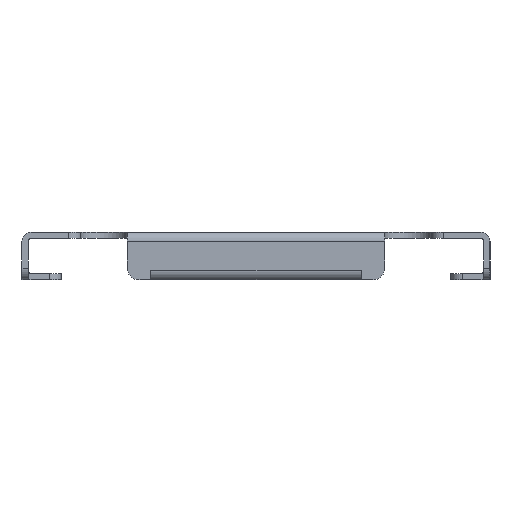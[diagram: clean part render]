
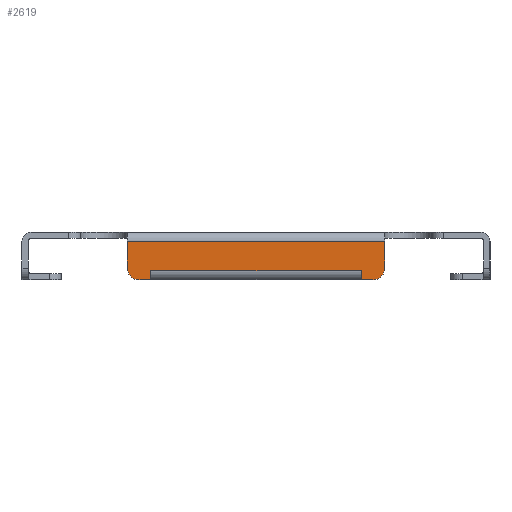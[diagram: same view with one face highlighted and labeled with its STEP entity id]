
A CAD part, left-side view. The second image highlights one B-rep face of the part: STEP entity #2619.
In plain terms, the highlighted planar face has unit normal (-1, 0, 0).
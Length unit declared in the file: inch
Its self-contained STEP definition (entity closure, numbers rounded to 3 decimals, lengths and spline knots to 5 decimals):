
#52=PLANE('',#2815);
#143=FACE_OUTER_BOUND('',#277,.T.);
#277=EDGE_LOOP('',(#1849,#1850,#1851,#1852,#1853,#1854,#1855,#1856,#1857,
#1858,#1859,#1860,#1861,#1862));
#455=LINE('',#3949,#739);
#458=LINE('',#3955,#742);
#459=LINE('',#3957,#743);
#460=LINE('',#3959,#744);
#461=LINE('',#3963,#745);
#462=LINE('',#3965,#746);
#463=LINE('',#3967,#747);
#464=LINE('',#3969,#748);
#465=LINE('',#3971,#749);
#466=LINE('',#3973,#750);
#467=LINE('',#3975,#751);
#468=LINE('',#3976,#752);
#739=VECTOR('',#3168,0.3937);
#742=VECTOR('',#3173,0.3937);
#743=VECTOR('',#3174,0.3937);
#744=VECTOR('',#3175,0.3937);
#745=VECTOR('',#3178,0.3937);
#746=VECTOR('',#3179,0.3937);
#747=VECTOR('',#3180,0.3937);
#748=VECTOR('',#3181,0.3937);
#749=VECTOR('',#3182,0.3937);
#750=VECTOR('',#3183,0.3937);
#751=VECTOR('',#3184,0.3937);
#752=VECTOR('',#3185,0.3937);
#998=CIRCLE('',#2813,0.125);
#999=CIRCLE('',#2816,0.125);
#1135=VERTEX_POINT('',#3942);
#1136=VERTEX_POINT('',#3944);
#1137=VERTEX_POINT('',#3948);
#1139=VERTEX_POINT('',#3954);
#1140=VERTEX_POINT('',#3956);
#1141=VERTEX_POINT('',#3958);
#1142=VERTEX_POINT('',#3960);
#1143=VERTEX_POINT('',#3962);
#1144=VERTEX_POINT('',#3964);
#1145=VERTEX_POINT('',#3966);
#1146=VERTEX_POINT('',#3968);
#1147=VERTEX_POINT('',#3970);
#1148=VERTEX_POINT('',#3972);
#1149=VERTEX_POINT('',#3974);
#1423=EDGE_CURVE('',#1135,#1136,#998,.T.);
#1425=EDGE_CURVE('',#1137,#1136,#455,.T.);
#1428=EDGE_CURVE('',#1135,#1139,#458,.T.);
#1429=EDGE_CURVE('',#1140,#1139,#459,.T.);
#1430=EDGE_CURVE('',#1140,#1141,#460,.T.);
#1431=EDGE_CURVE('',#1142,#1141,#999,.T.);
#1432=EDGE_CURVE('',#1142,#1143,#461,.T.);
#1433=EDGE_CURVE('',#1143,#1144,#462,.T.);
#1434=EDGE_CURVE('',#1144,#1145,#463,.T.);
#1435=EDGE_CURVE('',#1145,#1146,#464,.T.);
#1436=EDGE_CURVE('',#1146,#1147,#465,.T.);
#1437=EDGE_CURVE('',#1147,#1148,#466,.T.);
#1438=EDGE_CURVE('',#1148,#1149,#467,.T.);
#1439=EDGE_CURVE('',#1149,#1137,#468,.T.);
#1849=ORIENTED_EDGE('',*,*,#1423,.F.);
#1850=ORIENTED_EDGE('',*,*,#1428,.T.);
#1851=ORIENTED_EDGE('',*,*,#1429,.F.);
#1852=ORIENTED_EDGE('',*,*,#1430,.T.);
#1853=ORIENTED_EDGE('',*,*,#1431,.F.);
#1854=ORIENTED_EDGE('',*,*,#1432,.T.);
#1855=ORIENTED_EDGE('',*,*,#1433,.T.);
#1856=ORIENTED_EDGE('',*,*,#1434,.T.);
#1857=ORIENTED_EDGE('',*,*,#1435,.T.);
#1858=ORIENTED_EDGE('',*,*,#1436,.T.);
#1859=ORIENTED_EDGE('',*,*,#1437,.T.);
#1860=ORIENTED_EDGE('',*,*,#1438,.T.);
#1861=ORIENTED_EDGE('',*,*,#1439,.T.);
#1862=ORIENTED_EDGE('',*,*,#1425,.T.);
#2619=ADVANCED_FACE('',(#143),#52,.F.);
#2813=AXIS2_PLACEMENT_3D('',#3945,#3163,#3164);
#2815=AXIS2_PLACEMENT_3D('',#3953,#3171,#3172);
#2816=AXIS2_PLACEMENT_3D('',#3961,#3176,#3177);
#3163=DIRECTION('center_axis',(1.,0.,0.));
#3164=DIRECTION('ref_axis',(0.,-0.707,-0.707));
#3168=DIRECTION('',(0.,-1.,0.));
#3171=DIRECTION('center_axis',(1.,0.,0.));
#3172=DIRECTION('ref_axis',(0.,0.,-1.));
#3173=DIRECTION('',(0.,0.,1.));
#3174=DIRECTION('',(0.,-1.,0.));
#3175=DIRECTION('',(0.,0.,-1.));
#3176=DIRECTION('center_axis',(1.,0.,0.));
#3177=DIRECTION('ref_axis',(0.,0.707,-0.707));
#3178=DIRECTION('',(0.,-1.,0.));
#3179=DIRECTION('',(0.,0.,1.));
#3180=DIRECTION('',(0.,-1.,0.));
#3181=DIRECTION('',(0.,0.,-1.));
#3182=DIRECTION('',(0.,-1.,0.));
#3183=DIRECTION('',(0.,0.,1.));
#3184=DIRECTION('',(0.,-1.,0.));
#3185=DIRECTION('',(0.,0.,-1.));
#3942=CARTESIAN_POINT('',(-7.3125,-1.375,-0.319));
#3944=CARTESIAN_POINT('',(-7.3125,-1.25,-0.444));
#3945=CARTESIAN_POINT('Origin',(-7.3125,-1.25,-0.319));
#3948=CARTESIAN_POINT('',(-7.3125,-1.1252,-0.444));
#3949=CARTESIAN_POINT('',(-7.3125,1.375,-0.444));
#3953=CARTESIAN_POINT('Origin',(-7.3125,0.,-0.188));
#3954=CARTESIAN_POINT('',(-7.3125,-1.375,-0.031));
#3955=CARTESIAN_POINT('',(-7.3125,-1.375,-0.444));
#3956=CARTESIAN_POINT('',(-7.3125,1.375,-0.031));
#3957=CARTESIAN_POINT('',(-7.3125,-1.375,-0.031));
#3958=CARTESIAN_POINT('',(-7.3125,1.375,-0.319));
#3959=CARTESIAN_POINT('',(-7.3125,1.375,0.068));
#3960=CARTESIAN_POINT('',(-7.3125,1.25,-0.444));
#3961=CARTESIAN_POINT('Origin',(-7.3125,1.25,-0.319));
#3962=CARTESIAN_POINT('',(-7.3125,1.1252,-0.444));
#3963=CARTESIAN_POINT('',(-7.3125,1.375,-0.444));
#3964=CARTESIAN_POINT('',(-7.3125,1.1252,-0.3448));
#3965=CARTESIAN_POINT('',(-7.3125,1.1252,-0.316));
#3966=CARTESIAN_POINT('',(-7.3125,1.125,-0.3448));
#3967=CARTESIAN_POINT('',(-7.3125,0.5626,-0.3448));
#3968=CARTESIAN_POINT('',(-7.3125,1.125,-0.345));
#3969=CARTESIAN_POINT('',(-7.3125,1.125,-0.2664));
#3970=CARTESIAN_POINT('',(-7.3125,-1.125,-0.345));
#3971=CARTESIAN_POINT('',(-7.3125,-0.5625,-0.345));
#3972=CARTESIAN_POINT('',(-7.3125,-1.125,-0.3448));
#3973=CARTESIAN_POINT('',(-7.3125,-1.125,-0.316));
#3974=CARTESIAN_POINT('',(-7.3125,-1.1252,-0.3448));
#3975=CARTESIAN_POINT('',(-7.3125,-0.5625,-0.3448));
#3976=CARTESIAN_POINT('',(-7.3125,-1.1252,-0.2664));
